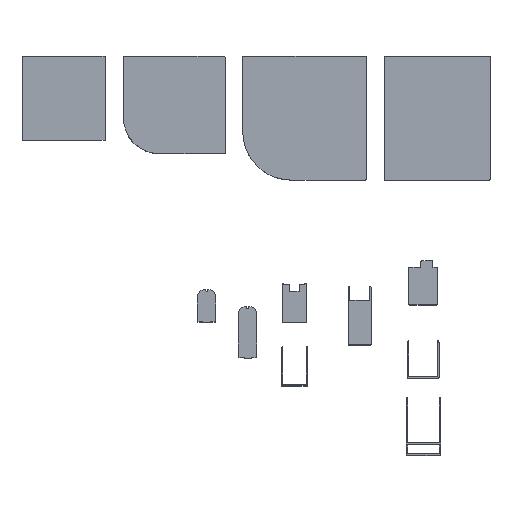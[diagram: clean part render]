
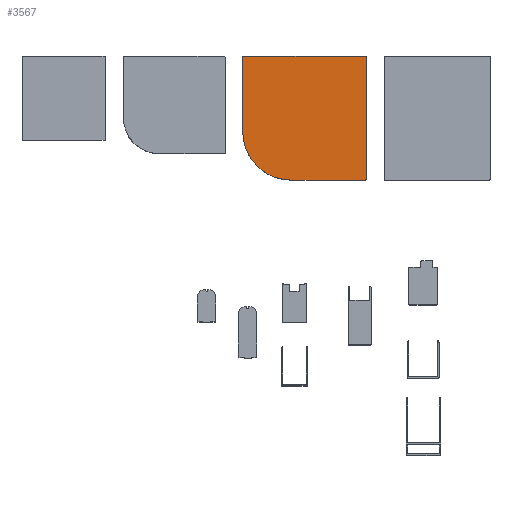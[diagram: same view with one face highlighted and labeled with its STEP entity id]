
A CAD part, top view. The second image highlights one B-rep face of the part: STEP entity #3567.
In plain terms, the highlighted planar face has unit normal (0, 0, 1).
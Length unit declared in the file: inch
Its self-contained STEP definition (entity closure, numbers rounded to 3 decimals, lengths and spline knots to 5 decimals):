
#112=PLANE('',#3782);
#223=VECTOR('',#4173,1.);
#229=VECTOR('',#4191,1.);
#233=VECTOR('',#4204,1.);
#234=VECTOR('',#4206,1.);
#582=LINE('',#5217,#223);
#588=LINE('',#5237,#229);
#592=LINE('',#5249,#233);
#593=LINE('',#5251,#234);
#937=VERTEX_POINT('',#5205);
#938=VERTEX_POINT('',#5206);
#942=VERTEX_POINT('',#5216);
#948=VERTEX_POINT('',#5232);
#949=VERTEX_POINT('',#5236);
#950=VERTEX_POINT('',#5240);
#951=VERTEX_POINT('',#5244);
#952=VERTEX_POINT('',#5245);
#1303=CIRCLE('',#3766,0.05);
#1308=CIRCLE('',#3774,0.05);
#1309=CIRCLE('',#3777,0.05);
#1310=CIRCLE('',#3779,2.725);
#1493=EDGE_CURVE('',#937,#938,#1303,.T.);
#1499=EDGE_CURVE('',#942,#937,#582,.T.);
#1506=EDGE_CURVE('',#948,#942,#1308,.T.);
#1509=EDGE_CURVE('',#949,#948,#588,.T.);
#1510=EDGE_CURVE('',#950,#949,#1309,.T.);
#1512=EDGE_CURVE('',#951,#952,#1310,.T.);
#1515=EDGE_CURVE('',#952,#950,#592,.T.);
#1516=EDGE_CURVE('',#938,#951,#593,.T.);
#2082=ORIENTED_EDGE('',*,*,#1493,.F.);
#2083=ORIENTED_EDGE('',*,*,#1499,.F.);
#2084=ORIENTED_EDGE('',*,*,#1506,.F.);
#2085=ORIENTED_EDGE('',*,*,#1509,.F.);
#2086=ORIENTED_EDGE('',*,*,#1510,.F.);
#2087=ORIENTED_EDGE('',*,*,#1515,.F.);
#2088=ORIENTED_EDGE('',*,*,#1512,.F.);
#2089=ORIENTED_EDGE('',*,*,#1516,.F.);
#3149=EDGE_LOOP('',(#2082,#2083,#2084,#2085,#2086,#2087,#2088,#2089));
#3358=FACE_BOUND('',#3149,.T.);
#3567=ADVANCED_FACE('',(#3358),#112,.T.);
#3766=AXIS2_PLACEMENT_3D('',#5204,#4164,#4165);
#3774=AXIS2_PLACEMENT_3D('',#5231,#4186,#4187);
#3777=AXIS2_PLACEMENT_3D('',#5239,#4194,#4195);
#3779=AXIS2_PLACEMENT_3D('',#5243,#4199,#4200);
#3782=AXIS2_PLACEMENT_3D('',#5252,#4207,$);
#4164=DIRECTION('',(0.,0.,-1.));
#4165=DIRECTION('',(0.035,-0.035,0.));
#4173=DIRECTION('',(0.,-1.,0.));
#4186=DIRECTION('',(0.,0.,-1.));
#4187=DIRECTION('',(0.035,0.035,0.));
#4191=DIRECTION('',(1.,0.,0.));
#4194=DIRECTION('',(0.,0.,-1.));
#4195=DIRECTION('',(-0.035,0.035,0.));
#4199=DIRECTION('',(0.,0.,-1.));
#4200=DIRECTION('',(2.725,0.,0.));
#4204=DIRECTION('',(0.,1.,0.));
#4206=DIRECTION('',(-1.,0.,0.));
#4207=DIRECTION('',(0.,0.,1.));
#5204=CARTESIAN_POINT('',(-4.78226,-4.69754,5.));
#5205=CARTESIAN_POINT('',(-4.73226,-4.69754,5.));
#5206=CARTESIAN_POINT('',(-4.78226,-4.74754,5.));
#5216=CARTESIAN_POINT('',(-4.73226,2.20246,5.));
#5217=CARTESIAN_POINT('',(-4.73226,2.25246,5.));
#5231=CARTESIAN_POINT('',(-4.78226,2.20246,5.));
#5232=CARTESIAN_POINT('',(-4.78226,2.25246,5.));
#5236=CARTESIAN_POINT('',(-11.68226,2.25246,5.));
#5237=CARTESIAN_POINT('',(-11.73226,2.25246,5.));
#5239=CARTESIAN_POINT('',(-11.68226,2.20246,5.));
#5240=CARTESIAN_POINT('',(-11.73226,2.20246,5.));
#5243=CARTESIAN_POINT('',(-9.00726,-2.02254,5.));
#5244=CARTESIAN_POINT('',(-9.00726,-4.74754,5.));
#5245=CARTESIAN_POINT('',(-11.73226,-2.02254,5.));
#5249=CARTESIAN_POINT('',(-11.73226,-2.02254,5.));
#5251=CARTESIAN_POINT('',(-4.73226,-4.74754,5.));
#5252=CARTESIAN_POINT('',(-8.05418,-1.06946,5.));
